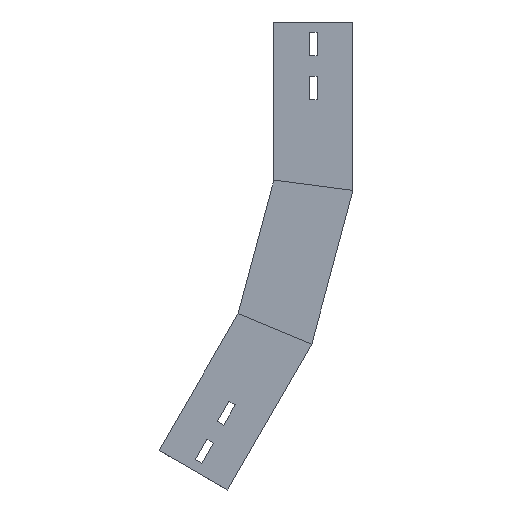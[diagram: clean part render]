
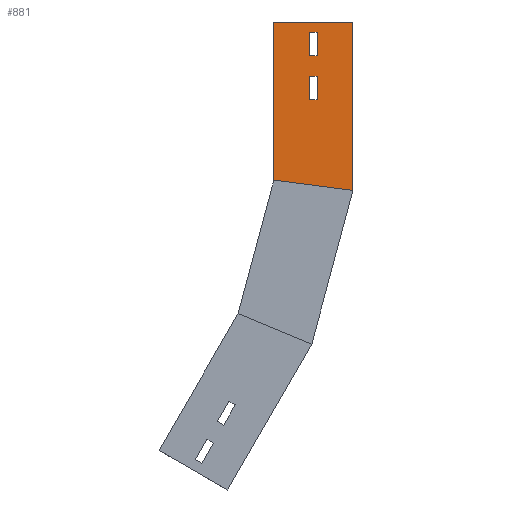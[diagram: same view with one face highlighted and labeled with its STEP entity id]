
A CAD part, left-side view. The second image highlights one B-rep face of the part: STEP entity #881.
In plain terms, the highlighted planar face has unit normal (-1, 0, 0) as drawn and (1, 0, 0) by its records, which use the part's own axes.
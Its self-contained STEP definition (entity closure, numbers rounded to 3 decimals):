
#7 = CARTESIAN_POINT ( 'NONE',  ( 0., 122.624, -382.254 ) ) ;
#17 = FACE_BOUND ( 'NONE', #415, .T. ) ;
#54 = CARTESIAN_POINT ( 'NONE',  ( 0., 57.291, -298.012 ) ) ;
#64 = VECTOR ( 'NONE', #1205, 1000. ) ;
#65 = VERTEX_POINT ( 'NONE', #896 ) ;
#75 = CARTESIAN_POINT ( 'NONE',  ( 0., 183.884, -406.359 ) ) ;
#100 = VERTEX_POINT ( 'NONE', #803 ) ;
#147 = DIRECTION ( 'NONE',  ( 0., 0.5, -0.866 ) ) ;
#160 = ORIENTED_EDGE ( 'NONE', *, *, #1057, .F. ) ;
#183 = EDGE_LOOP ( 'NONE', ( #520, #1094, #160, #414 ) ) ;
#213 = ORIENTED_EDGE ( 'NONE', *, *, #521, .F. ) ;
#234 = EDGE_CURVE ( 'NONE', #749, #387, #409, .T. ) ;
#247 = CARTESIAN_POINT ( 'NONE',  ( 0., 143.459, -418.342 ) ) ;
#271 = VECTOR ( 'NONE', #705, 1000. ) ;
#283 = VERTEX_POINT ( 'NONE', #247 ) ;
#285 = PLANE ( 'NONE',  #764 ) ;
#303 = CARTESIAN_POINT ( 'NONE',  ( 0., 128.686, -378.754 ) ) ;
#309 = CARTESIAN_POINT ( 'NONE',  ( 0., 118.932, -443.859 ) ) ;
#323 = VECTOR ( 'NONE', #802, 1000. ) ;
#345 = DIRECTION ( 'NONE',  ( 0., -0.866, -0.5 ) ) ;
#376 = VERTEX_POINT ( 'NONE', #633 ) ;
#387 = VERTEX_POINT ( 'NONE', #75 ) ;
#392 = VECTOR ( 'NONE', #761, 1000. ) ;
#401 = EDGE_CURVE ( 'NONE', #65, #1150, #1004, .T. ) ;
#409 = LINE ( 'NONE', #865, #64 ) ;
#414 = ORIENTED_EDGE ( 'NONE', *, *, #1078, .F. ) ;
#415 = EDGE_LOOP ( 'NONE', ( #1295, #213, #623, #1101 ) ) ;
#438 = LINE ( 'NONE', #1016, #323 ) ;
#454 = VECTOR ( 'NONE', #1112, 1000. ) ;
#479 = DIRECTION ( 'NONE',  ( 0., 0., 1. ) ) ;
#503 = CARTESIAN_POINT ( 'NONE',  ( 0., 104.034, -268.055 ) ) ;
#516 = VERTEX_POINT ( 'NONE', #592 ) ;
#520 = ORIENTED_EDGE ( 'NONE', *, *, #797, .F. ) ;
#521 = EDGE_CURVE ( 'NONE', #1339, #65, #584, .T. ) ;
#523 = LINE ( 'NONE', #1105, #454 ) ;
#529 = VECTOR ( 'NONE', #559, 1000. ) ;
#549 = DIRECTION ( 'NONE',  ( 0., -0.5, 0.866 ) ) ;
#557 = VECTOR ( 'NONE', #549, 1000. ) ;
#559 = DIRECTION ( 'NONE',  ( 0., 0.5, -0.866 ) ) ;
#576 = CARTESIAN_POINT ( 'NONE',  ( 0., 149.521, -414.842 ) ) ;
#584 = LINE ( 'NONE', #1401, #271 ) ;
#592 = CARTESIAN_POINT ( 'NONE',  ( 0., 39.082, -305.555 ) ) ;
#596 = EDGE_CURVE ( 'NONE', #100, #1339, #744, .T. ) ;
#598 = FACE_BOUND ( 'NONE', #183, .T. ) ;
#623 = ORIENTED_EDGE ( 'NONE', *, *, #596, .F. ) ;
#633 = CARTESIAN_POINT ( 'NONE',  ( 0., 149.521, -414.842 ) ) ;
#638 = DIRECTION ( 'NONE',  ( 0., 0.5, -0.866 ) ) ;
#660 = CARTESIAN_POINT ( 'NONE',  ( 0., 143.459, -418.342 ) ) ;
#704 = ORIENTED_EDGE ( 'NONE', *, *, #1427, .T. ) ;
#705 = DIRECTION ( 'NONE',  ( 0., 0.866, 0.5 ) ) ;
#717 = CARTESIAN_POINT ( 'NONE',  ( 0., 122.624, -382.254 ) ) ;
#726 = CARTESIAN_POINT ( 'NONE',  ( 0., 39.082, -305.555 ) ) ;
#733 = LINE ( 'NONE', #503, #392 ) ;
#744 = LINE ( 'NONE', #717, #1125 ) ;
#747 = CARTESIAN_POINT ( 'NONE',  ( 0., 39.082, -305.555 ) ) ;
#749 = VERTEX_POINT ( 'NONE', #309 ) ;
#761 = DIRECTION ( 'NONE',  ( 0., 0.5, -0.866 ) ) ;
#764 = AXIS2_PLACEMENT_3D ( 'NONE', #726, #1052, #479 ) ;
#767 = VECTOR ( 'NONE', #885, 1000. ) ;
#783 = LINE ( 'NONE', #660, #529 ) ;
#786 = LINE ( 'NONE', #54, #1130 ) ;
#797 = EDGE_CURVE ( 'NONE', #376, #848, #523, .T. ) ;
#802 = DIRECTION ( 'NONE',  ( 0., -0.866, -0.5 ) ) ;
#803 = CARTESIAN_POINT ( 'NONE',  ( 0., 111.624, -363.202 ) ) ;
#830 = VERTEX_POINT ( 'NONE', #987 ) ;
#848 = VERTEX_POINT ( 'NONE', #921 ) ;
#865 = CARTESIAN_POINT ( 'NONE',  ( 0., 118.932, -443.859 ) ) ;
#881 = ADVANCED_FACE ( 'NONE', ( #598, #17, #1158 ), #285, .F. ) ;
#885 = DIRECTION ( 'NONE',  ( 0., 0.866, 0.5 ) ) ;
#896 = CARTESIAN_POINT ( 'NONE',  ( 0., 128.686, -378.754 ) ) ;
#921 = CARTESIAN_POINT ( 'NONE',  ( 0., 138.521, -395.789 ) ) ;
#987 = CARTESIAN_POINT ( 'NONE',  ( 0., 132.459, -399.289 ) ) ;
#1003 = ORIENTED_EDGE ( 'NONE', *, *, #1162, .F. ) ;
#1004 = LINE ( 'NONE', #303, #557 ) ;
#1016 = CARTESIAN_POINT ( 'NONE',  ( 0., 138.521, -395.789 ) ) ;
#1027 = ORIENTED_EDGE ( 'NONE', *, *, #234, .T. ) ;
#1052 = DIRECTION ( 'NONE',  ( -1., 0., 0. ) ) ;
#1057 = EDGE_CURVE ( 'NONE', #830, #283, #783, .T. ) ;
#1078 = EDGE_CURVE ( 'NONE', #848, #830, #438, .T. ) ;
#1094 = ORIENTED_EDGE ( 'NONE', *, *, #1235, .F. ) ;
#1101 = ORIENTED_EDGE ( 'NONE', *, *, #1208, .F. ) ;
#1103 = EDGE_CURVE ( 'NONE', #1282, #516, #786, .T. ) ;
#1105 = CARTESIAN_POINT ( 'NONE',  ( 0., 149.521, -414.842 ) ) ;
#1106 = CARTESIAN_POINT ( 'NONE',  ( 0., 117.686, -359.702 ) ) ;
#1112 = DIRECTION ( 'NONE',  ( 0., -0.5, 0.866 ) ) ;
#1125 = VECTOR ( 'NONE', #147, 1000. ) ;
#1130 = VECTOR ( 'NONE', #1311, 1000. ) ;
#1150 = VERTEX_POINT ( 'NONE', #1106 ) ;
#1158 = FACE_OUTER_BOUND ( 'NONE', #1305, .T. ) ;
#1162 = EDGE_CURVE ( 'NONE', #1282, #387, #733, .T. ) ;
#1186 = ORIENTED_EDGE ( 'NONE', *, *, #1103, .T. ) ;
#1205 = DIRECTION ( 'NONE',  ( 0., 0.866, 0.5 ) ) ;
#1208 = EDGE_CURVE ( 'NONE', #1150, #100, #1352, .T. ) ;
#1221 = VECTOR ( 'NONE', #345, 1000. ) ;
#1222 = VECTOR ( 'NONE', #638, 1000. ) ;
#1235 = EDGE_CURVE ( 'NONE', #283, #376, #1492, .T. ) ;
#1282 = VERTEX_POINT ( 'NONE', #1460 ) ;
#1295 = ORIENTED_EDGE ( 'NONE', *, *, #401, .F. ) ;
#1305 = EDGE_LOOP ( 'NONE', ( #1186, #704, #1027, #1003 ) ) ;
#1311 = DIRECTION ( 'NONE',  ( 0., -0.924, -0.383 ) ) ;
#1325 = LINE ( 'NONE', #747, #1222 ) ;
#1339 = VERTEX_POINT ( 'NONE', #7 ) ;
#1352 = LINE ( 'NONE', #1463, #1221 ) ;
#1401 = CARTESIAN_POINT ( 'NONE',  ( 0., 128.686, -378.754 ) ) ;
#1427 = EDGE_CURVE ( 'NONE', #516, #749, #1325, .T. ) ;
#1460 = CARTESIAN_POINT ( 'NONE',  ( 0., 108.971, -276.606 ) ) ;
#1463 = CARTESIAN_POINT ( 'NONE',  ( 0., 117.686, -359.702 ) ) ;
#1492 = LINE ( 'NONE', #576, #767 ) ;
